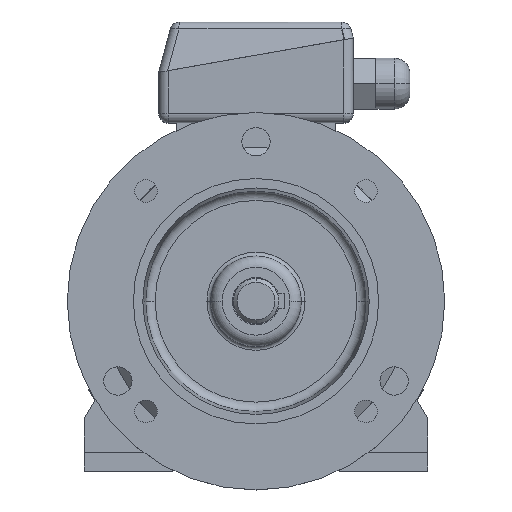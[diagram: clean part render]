
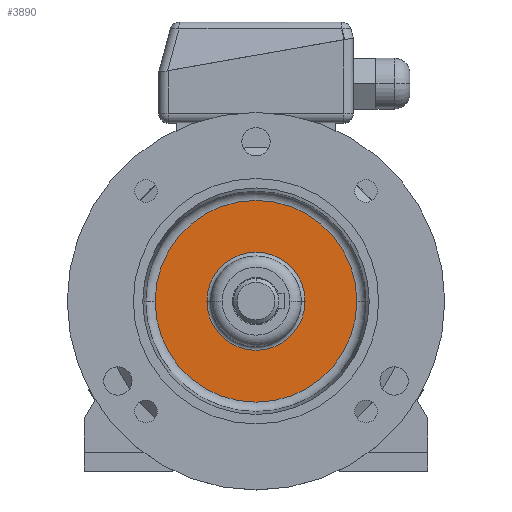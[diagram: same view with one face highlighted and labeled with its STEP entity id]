
A CAD part, top view. The second image highlights one B-rep face of the part: STEP entity #3890.
In plain terms, the highlighted planar face has unit normal (0, 0, 1).
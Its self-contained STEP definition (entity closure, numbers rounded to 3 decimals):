
#108 = ORIENTED_EDGE ( 'NONE', *, *, #23468, .F. ) ;
#16898 = CARTESIAN_POINT ( 'NONE',  ( -53.45, 0., 21. ) ) ;
#941 = ORIENTED_EDGE ( 'NONE', *, *, #16143, .F. ) ;
#17553 = CIRCLE ( 'NONE', #17554, 53.45 ) ;
#17554 = AXIS2_PLACEMENT_3D ( 'NONE', #17555, #17556, #17557 ) ;
#17555 = CARTESIAN_POINT ( 'NONE',  ( 0., 0., 21. ) ) ;
#17556 = DIRECTION ( 'NONE',  ( 0., 0., -1. ) ) ;
#17557 = DIRECTION ( 'NONE',  ( -1., 0., 0. ) ) ;
#1574 = EDGE_LOOP ( 'NONE', ( #941, #108 ) ) ;
#1892 = ORIENTED_EDGE ( 'NONE', *, *, #5081, .T. ) ;
#18850 = CARTESIAN_POINT ( 'NONE',  ( 53.45, 0., 21. ) ) ;
#2524 = EDGE_CURVE ( 'NONE', #4530, #4805, #20126, .T. ) ;
#2993 = ORIENTED_EDGE ( 'NONE', *, *, #2524, .T. ) ;
#3635 = EDGE_LOOP ( 'NONE', ( #2993, #1892 ) ) ;
#20126 = CIRCLE ( 'NONE', #20136, 26. ) ;
#20136 = AXIS2_PLACEMENT_3D ( 'NONE', #20137, #20138, #20139 ) ;
#20137 = CARTESIAN_POINT ( 'NONE',  ( 0., 0., 21. ) ) ;
#20138 = DIRECTION ( 'NONE',  ( 0., 0., -1. ) ) ;
#20139 = DIRECTION ( 'NONE',  ( -1., 0., 0. ) ) ;
#3890 = ADVANCED_FACE ( 'NONE', ( #21772, #21773 ), #21774, .T. ) ;
#4530 = VERTEX_POINT ( 'NONE', #22462 ) ;
#4805 = VERTEX_POINT ( 'NONE', #22825 ) ;
#5081 = EDGE_CURVE ( 'NONE', #4805, #4530, #23007, .T. ) ;
#21772 = FACE_BOUND ( 'NONE', #3635, .T. ) ;
#21773 = FACE_OUTER_BOUND ( 'NONE', #1574, .T. ) ;
#21774 = PLANE ( 'NONE',  #21775 ) ;
#21775 = AXIS2_PLACEMENT_3D ( 'NONE', #21776, #21777, #21778 ) ;
#21776 = CARTESIAN_POINT ( 'NONE',  ( -53.45, 0., 21. ) ) ;
#21777 = DIRECTION ( 'NONE',  ( 0., 0., 1. ) ) ;
#21778 = DIRECTION ( 'NONE',  ( 1., 0., 0. ) ) ;
#22462 = CARTESIAN_POINT ( 'NONE',  ( -26., 0., 21. ) ) ;
#22825 = CARTESIAN_POINT ( 'NONE',  ( 26., 0., 21. ) ) ;
#23007 = CIRCLE ( 'NONE', #23008, 26. ) ;
#23008 = AXIS2_PLACEMENT_3D ( 'NONE', #23009, #23010, #23011 ) ;
#23009 = CARTESIAN_POINT ( 'NONE',  ( 0., 0., 21. ) ) ;
#23010 = DIRECTION ( 'NONE',  ( 0., 0., -1. ) ) ;
#23011 = DIRECTION ( 'NONE',  ( -1., 0., 0. ) ) ;
#23195 = VERTEX_POINT ( 'NONE', #16898 ) ;
#23468 = EDGE_CURVE ( 'NONE', #24537, #23195, #17553, .T. ) ;
#24537 = VERTEX_POINT ( 'NONE', #18850 ) ;
#10044 = CIRCLE ( 'NONE', #10045, 53.45 ) ;
#10045 = AXIS2_PLACEMENT_3D ( 'NONE', #10046, #10047, #10048 ) ;
#10046 = CARTESIAN_POINT ( 'NONE',  ( 0., 0., 21. ) ) ;
#10047 = DIRECTION ( 'NONE',  ( 0., 0., -1. ) ) ;
#10048 = DIRECTION ( 'NONE',  ( -1., 0., 0. ) ) ;
#16143 = EDGE_CURVE ( 'NONE', #23195, #24537, #10044, .T. ) ;
